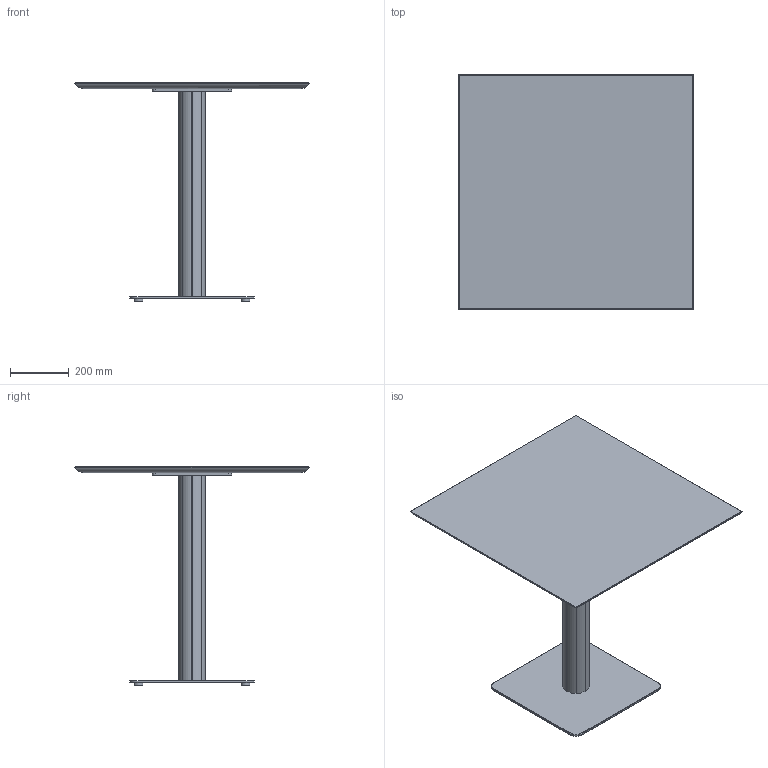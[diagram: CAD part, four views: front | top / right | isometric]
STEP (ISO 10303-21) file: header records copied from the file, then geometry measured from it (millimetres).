
FILE_DESCRIPTION( ('This file contains a STEP AP42 implementation' ,'as created by ZW3D STEP Interface translator.') ,'2;1' );
FILE_NAME( 'Fut - B_Carré - F4 - M3 - 800 x 800 x 750.stp' ,'24 911.163635', (''), ('ZWCAD Software Co.'), 'Version 1.0', 'ZW3D to STEP translator', '' );
FILE_SCHEMA(('AUTOMOTIVE_DESIGN { 1 0 10303 214 1 1 1 1 }'));
Length unit declared in the file: millimetre
Products named in the file (15): 0; PIED BISTROT PARAMETRIQUE_; CROIX ACIER 370 V.02_; CRX-X370-02_; SOCLE ACIER L 425x425 V.02_; SCL-R425-02_; PLA-R30A-01_; PLA-R30A-01; COLONNE ACIER Ø48.5 V.02_; TUB-D048-02_; PLA-R48A-01_; COLONNE BOIS PARAMETIQUE_; WUERTH 0276063020 Euro-screw 6.3x2 Verzinkt_; PLATEAU BISTROT PARAMETRIQUE_; insert_m6_13_
Assembly tree (23 placements, depth 3):
  0
  PIED BISTROT PARAMETRIQUE_
    CROIX ACIER 370 V.02_
      CRX-X370-02_
    SOCLE ACIER L 425x425 V.02_
      SCL-R425-02_
      PLA-R30A-01_
      PLA-R30A-01  x3
    COLONNE ACIER Ø48.5 V.02_
      TUB-D048-02_
      PLA-R48A-01_  x2
    COLONNE BOIS PARAMETIQUE_
    WUERTH 0276063020 Euro-screw 6.3x2 Verzinkt_
    PLATEAU BISTROT PARAMETRIQUE_
      insert_m6_13_  x8
Bounding box: 800 x 800 x 744 mm (x, y, z)
Volume: 17262470.1 mm3; surface area: 2469132.5 mm2
Topology: 23 solids, 23 shells, 557 faces, 1354 edges, 850 vertices
Faces by surface type: plane 278, bspline 125, cylinder 108, cone 45, torus 1
Full cylindrical faces by diameter (mm): 4.88 x1, 6 x8, 6.3 x1, 8 x45, 12 x2, 14 x2, 30 x4, 44.5 x3, 48.5 x1
Entity records: 13051 total; most frequent: CARTESIAN_POINT 3597, ORIENTED_EDGE 1722, DIRECTION 1592, EDGE_CURVE 861, VERTEX_POINT 552, VECTOR 550, LINE 550, AXIS2_PLACEMENT_3D 521
